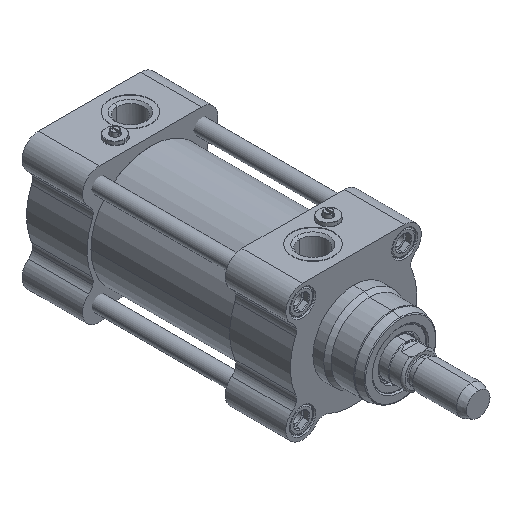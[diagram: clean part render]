
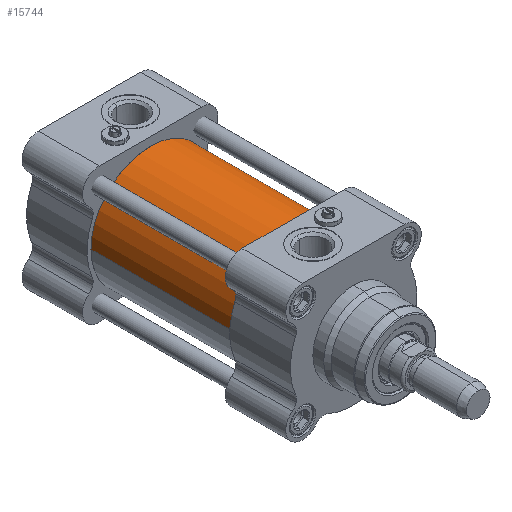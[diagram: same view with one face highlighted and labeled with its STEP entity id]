
A CAD part, isometric view. The second image highlights one B-rep face of the part: STEP entity #15744.
In plain terms, the highlighted cylindrical face has radius 33 mm (diameter 66 mm), a partial arc.
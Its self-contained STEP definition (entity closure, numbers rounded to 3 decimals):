
#170 = VERTEX_POINT ( 'NONE', #19047 ) ;
#839 = CARTESIAN_POINT ( 'NONE',  ( 33., 0., 0. ) ) ;
#883 = CARTESIAN_POINT ( 'NONE',  ( -33., 0., 0. ) ) ;
#1077 = VECTOR ( 'NONE', #1083, 1000. ) ;
#1083 = DIRECTION ( 'NONE',  ( 0., 1., 0. ) ) ;
#1296 = CARTESIAN_POINT ( 'NONE',  ( 0., -39.3, 0. ) ) ;
#3286 = DIRECTION ( 'NONE',  ( 0., 1., 0. ) ) ;
#4202 = EDGE_CURVE ( 'NONE', #170, #15214, #22926, .T. ) ;
#4299 = LINE ( 'NONE', #883, #13479 ) ;
#4705 = CYLINDRICAL_SURFACE ( 'NONE', #16704, 33. ) ;
#5766 = VERTEX_POINT ( 'NONE', #12688 ) ;
#7065 = CARTESIAN_POINT ( 'NONE',  ( 0., 39.3, 0. ) ) ;
#7536 = EDGE_CURVE ( 'NONE', #16476, #170, #4299, .T. ) ;
#8347 = EDGE_CURVE ( 'NONE', #5766, #15214, #13742, .T. ) ;
#9033 = EDGE_LOOP ( 'NONE', ( #18623, #14968, #11562, #13363 ) ) ;
#10317 = DIRECTION ( 'NONE',  ( 1., 0., 0. ) ) ;
#11562 = ORIENTED_EDGE ( 'NONE', *, *, #8347, .T. ) ;
#12124 = CARTESIAN_POINT ( 'NONE',  ( 0., 0., 0. ) ) ;
#12434 = AXIS2_PLACEMENT_3D ( 'NONE', #7065, #3286, #14485 ) ;
#12583 = CARTESIAN_POINT ( 'NONE',  ( 33., 39.3, 0. ) ) ;
#12688 = CARTESIAN_POINT ( 'NONE',  ( 33., -39.3, 0. ) ) ;
#12745 = DIRECTION ( 'NONE',  ( 0., -1., 0. ) ) ;
#13187 = AXIS2_PLACEMENT_3D ( 'NONE', #1296, #12745, #23336 ) ;
#13363 = ORIENTED_EDGE ( 'NONE', *, *, #4202, .F. ) ;
#13479 = VECTOR ( 'NONE', #17206, 1000. ) ;
#13742 = LINE ( 'NONE', #839, #1077 ) ;
#14485 = DIRECTION ( 'NONE',  ( 1., 0., 0. ) ) ;
#14968 = ORIENTED_EDGE ( 'NONE', *, *, #15772, .F. ) ;
#15214 = VERTEX_POINT ( 'NONE', #12583 ) ;
#15744 = ADVANCED_FACE ( 'NONE', ( #21389 ), #4705, .T. ) ;
#15772 = EDGE_CURVE ( 'NONE', #5766, #16476, #20588, .T. ) ;
#16476 = VERTEX_POINT ( 'NONE', #19753 ) ;
#16704 = AXIS2_PLACEMENT_3D ( 'NONE', #12124, #19566, #10317 ) ;
#17206 = DIRECTION ( 'NONE',  ( 0., 1., 0. ) ) ;
#18623 = ORIENTED_EDGE ( 'NONE', *, *, #7536, .F. ) ;
#19047 = CARTESIAN_POINT ( 'NONE',  ( -33., 39.3, 0. ) ) ;
#19566 = DIRECTION ( 'NONE',  ( 0., 1., 0. ) ) ;
#19753 = CARTESIAN_POINT ( 'NONE',  ( -33., -39.3, 0. ) ) ;
#20588 = CIRCLE ( 'NONE', #13187, 33. ) ;
#21389 = FACE_OUTER_BOUND ( 'NONE', #9033, .T. ) ;
#22926 = CIRCLE ( 'NONE', #12434, 33. ) ;
#23336 = DIRECTION ( 'NONE',  ( 1., 0., 0. ) ) ;
